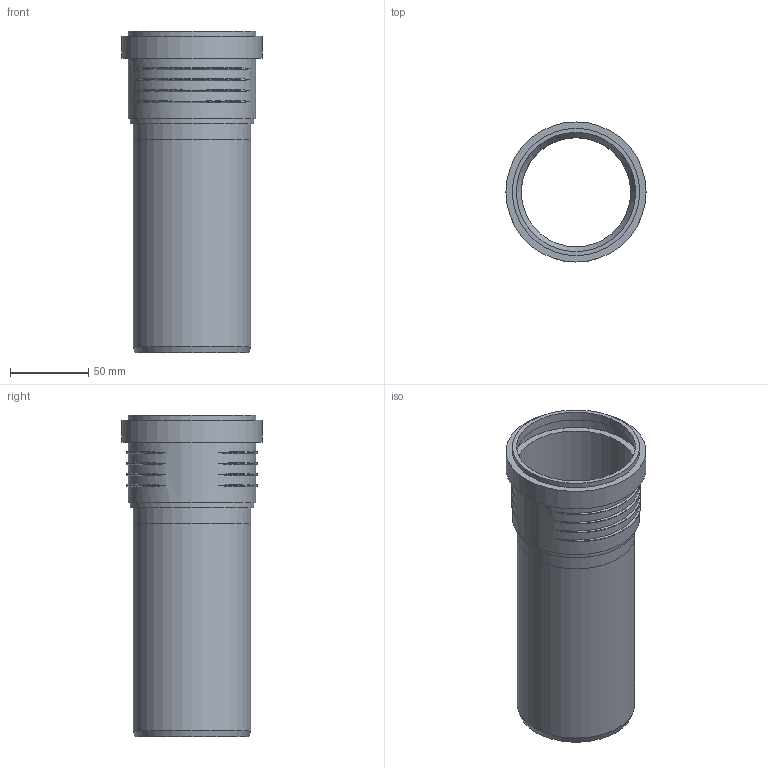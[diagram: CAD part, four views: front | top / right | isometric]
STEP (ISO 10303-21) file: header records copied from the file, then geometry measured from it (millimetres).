
FILE_DESCRIPTION(/* description */ (''),/* implementation_level */ '2;1');
FILE_NAME(/* name */ 'Z:\Geberit\Export\NewStep\390300.stp',/* time_stamp */ '2014-04-02T08:11:03+02:00',/* author */ ('ML'),/* organization */ (''),/* preprocessor_version */ 'ST-DEVELOPER v15.2',/* originating_system */ 'Autodesk Inventor 2014',/* authorisation */ '');
FILE_SCHEMA (('AUTOMOTIVE_DESIGN { 1 0 10303 214 3 1 1 }'));
Length unit declared in the file: millimetre
Products named in the file (3): 861699; 861701ohne; 390300
Bounding box: 89.6 x 89.6 x 205.7 mm (x, y, z)
Volume: 138835.5 mm3; surface area: 109493.4 mm2
Topology: 2 solids, 2 shells, 47 faces, 104 edges, 71 vertices
Faces by surface type: torus 24, cylinder 11, plane 10, cone 2
Full cylindrical faces by diameter (mm): 70 x2, 75.2 x2, 76.2 x2, 78.8 x1, 81.4 x2, 84.4 x1, 89.6 x1
Entity records: 2003 total; most frequent: CARTESIAN_POINT 962, DIRECTION 182, ORIENTED_EDGE 174, AXIS2_PLACEMENT_3D 91, EDGE_CURVE 87, EDGE_LOOP 78, VERTEX_POINT 71, STYLED_ITEM 49
